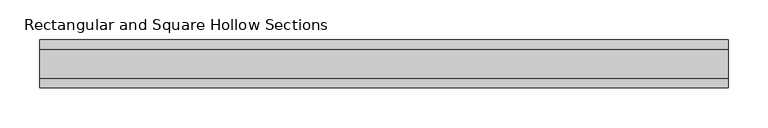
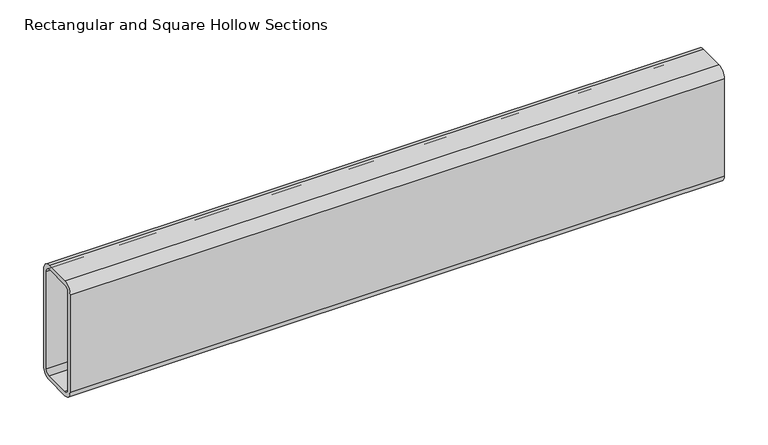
"""IFC4 building model written with IfcOpenShell, lengths in millimetres: beam geometry, Rectangular and Square Hollow Sections : TREC160x60x6."""

from ifc_helpers import new_model, si_unit, point, frame, frame_2d, origin, place, context, project, spatial, polyline, circle_curve, trimmed, segment, composite_curve, outline, extrude, source, transform, mapped, element, save


def rectangular_and_square_hollow_sections_5330a2fb(model_context):
    return source(origin(), model_context, "Body", "SweptSolid", [
        extrude(outline(composite_curve([segment(polyline([(30.0, 68.0), (30.0, -68.0)]), True, "CONTINUOUS"), segment(trimmed(circle_curve(frame_2d((18.0, -68.0)), 12.0), [point((30.0, -68.0))], [point((18.0, -80.0))], False, "CARTESIAN"), True, "CONTINUOUS"), segment(polyline([(18.0, -80.0), (-18.0, -80.0)]), True, "CONTINUOUS"), segment(trimmed(circle_curve(frame_2d((-18.0, -68.0)), 12.0), [point((-18.0, -80.0))], [point((-30.0, -68.0))], False, "CARTESIAN"), True, "CONTINUOUS"), segment(polyline([(-30.0, -68.0), (-30.0, 68.0)]), True, "CONTINUOUS"), segment(trimmed(circle_curve(frame_2d((-18.0, 68.0)), 12.0), [point((-30.0, 68.0))], [point((-18.0, 80.0))], False, "CARTESIAN"), True, "CONTINUOUS"), segment(polyline([(-18.0, 80.0), (18.0, 80.0)]), True, "CONTINUOUS"), segment(trimmed(circle_curve(frame_2d((18.0, 68.0)), 12.0), [point((18.0, 80.0))], [point((30.0, 68.0))], False, "CARTESIAN"), True, "CONTINUOUS")], self_intersect=False), holes=[composite_curve([segment(trimmed(circle_curve(frame_2d((-18.0, 68.0)), 6.0), [point((-18.0, 74.0))], [point((-24.0, 68.0))], True, "CARTESIAN"), True, "CONTINUOUS"), segment(polyline([(-24.0, 68.0), (-24.0, -68.0)]), True, "CONTINUOUS"), segment(trimmed(circle_curve(frame_2d((-18.0, -68.0)), 6.0), [point((-24.0, -68.0))], [point((-18.0, -74.0))], True, "CARTESIAN"), True, "CONTINUOUS"), segment(polyline([(-18.0, -74.0), (18.0, -74.0)]), True, "CONTINUOUS"), segment(trimmed(circle_curve(frame_2d((18.0, -68.0)), 6.0), [point((18.0, -74.0))], [point((24.0, -68.0))], True, "CARTESIAN"), True, "CONTINUOUS"), segment(polyline([(24.0, -68.0), (24.0, 68.0)]), True, "CONTINUOUS"), segment(trimmed(circle_curve(frame_2d((18.0, 68.0)), 6.0), [point((24.0, 68.0))], [point((18.0, 74.0))], True, "CARTESIAN"), True, "CONTINUOUS"), segment(polyline([(18.0, 74.0), (-18.0, 74.0)]), True, "CONTINUOUS")], self_intersect=False)]), frame((-391.0, 0.0, 0.0), z_axis=(1.0, 0.0, 0.0), x_axis=(0.0, 1.0, 0.0)), (0.0, 0.0, 1.0), 862.0),
    ])


if __name__ == "__main__":
    model = new_model("IFC4")
    model_context = context("Model", 3, world=origin())
    ifc_project = project(units=[si_unit("LENGTHUNIT", "METRE", prefix="MILLI")], contexts=[model_context])
    site = spatial("IfcSite", under=ifc_project)
    building = spatial("IfcBuilding", under=site)
    placement = place(None, origin())
    rectangular_and_square_hollow_sections_shape = rectangular_and_square_hollow_sections_5330a2fb(model_context)
    element("IfcBeam", 1, ObjectType="Rectangular and Square Hollow Sections : TREC160x60x6", at=placement, inside=building, context=model_context, shape_type="MappedRepresentation", body=[
        mapped(rectangular_and_square_hollow_sections_shape, transform((0.0, 0.0, 0.0), x_axis=(1.0, 0.0, 0.0), y_axis=(0.0, 1.0, 0.0), z_axis=(0.0, 0.0, 1.0))),
    ])
    save(model, "model.ifc")
